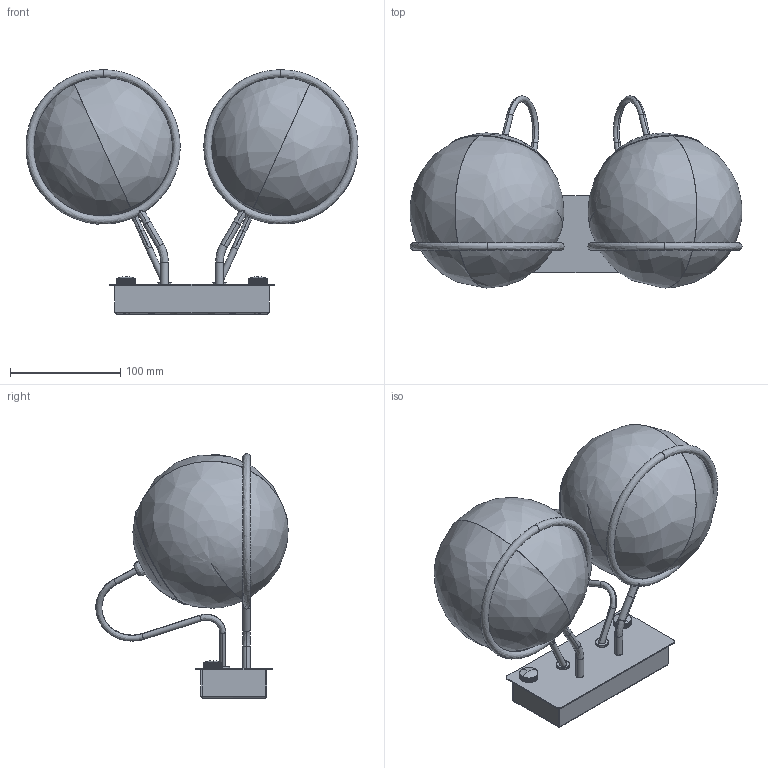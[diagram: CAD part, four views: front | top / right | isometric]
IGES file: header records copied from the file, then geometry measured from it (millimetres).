
Global section: file name: /Users/nicholas/Downloads/Astep - CAD - Model 237-2/Model 237:2.igs; preprocessor: Trout Lake IGES 012 May 14 2018; date: 190227.150908; units: millimetre
Bounding box: 301.5 x 174.66 x 221.98 mm (x, y, z)
Surface area: 339578.4 mm2 (no closed solid volume)
Topology: 0 solids, 0 shells, 647 faces, 3828 edges, 3800 vertices
Faces by surface type: bspline 647
